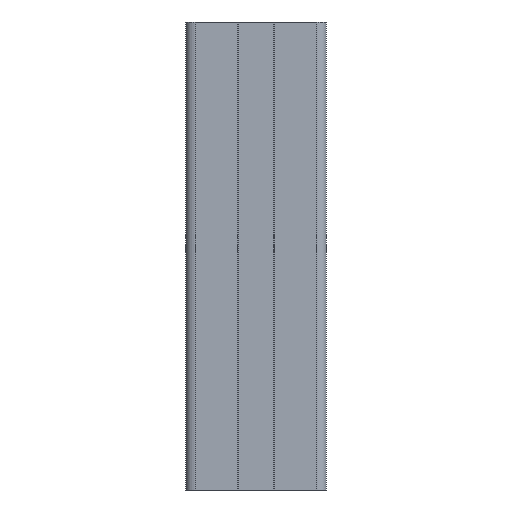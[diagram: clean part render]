
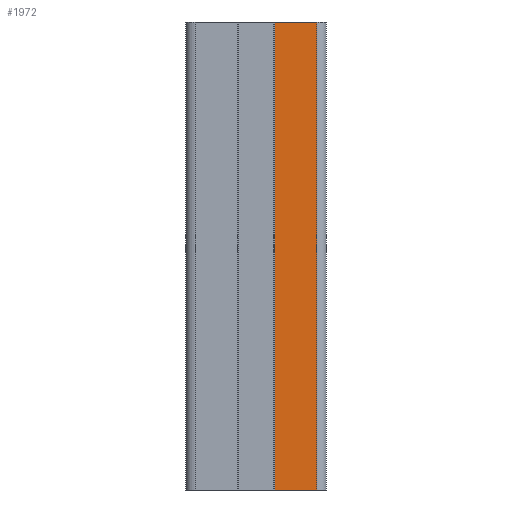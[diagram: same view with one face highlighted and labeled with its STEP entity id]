
A CAD part, left-side view. The second image highlights one B-rep face of the part: STEP entity #1972.
In plain terms, the highlighted planar face has unit normal (-1, 0, 0).
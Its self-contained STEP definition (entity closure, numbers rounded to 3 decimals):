
#171=FACE_OUTER_BOUND('',#272,.T.);
#272=EDGE_LOOP('',(#1403,#1404,#1405,#1406));
#415=LINE('',#3003,#634);
#416=LINE('',#3005,#635);
#417=LINE('',#3007,#636);
#418=LINE('',#3008,#637);
#634=VECTOR('',#2421,10.);
#635=VECTOR('',#2422,10.);
#636=VECTOR('',#2423,10.);
#637=VECTOR('',#2424,10.);
#850=VERTEX_POINT('',#3001);
#851=VERTEX_POINT('',#3002);
#852=VERTEX_POINT('',#3004);
#853=VERTEX_POINT('',#3006);
#1077=EDGE_CURVE('',#850,#851,#415,.T.);
#1078=EDGE_CURVE('',#850,#852,#416,.T.);
#1079=EDGE_CURVE('',#853,#852,#417,.T.);
#1080=EDGE_CURVE('',#851,#853,#418,.T.);
#1403=ORIENTED_EDGE('',*,*,#1077,.F.);
#1404=ORIENTED_EDGE('',*,*,#1078,.T.);
#1405=ORIENTED_EDGE('',*,*,#1079,.F.);
#1406=ORIENTED_EDGE('',*,*,#1080,.F.);
#1897=PLANE('',#2122);
#1972=ADVANCED_FACE('',(#171),#1897,.T.);
#2122=AXIS2_PLACEMENT_3D('',#3000,#2419,#2420);
#2419=DIRECTION('center_axis',(-1.,0.,0.));
#2420=DIRECTION('ref_axis',(0.,1.,0.));
#2421=DIRECTION('',(0.,-1.,0.));
#2422=DIRECTION('',(0.,0.,-1.));
#2423=DIRECTION('',(0.,1.,0.));
#2424=DIRECTION('',(0.,0.,-1.));
#3000=CARTESIAN_POINT('Origin',(-15.,-13.,500.));
#3001=CARTESIAN_POINT('',(-15.,-4.,500.));
#3002=CARTESIAN_POINT('',(-15.,-13.,500.));
#3003=CARTESIAN_POINT('',(-15.,-4.,500.));
#3004=CARTESIAN_POINT('',(-15.,-4.,400.));
#3005=CARTESIAN_POINT('',(-15.,-4.,500.));
#3006=CARTESIAN_POINT('',(-15.,-13.,400.));
#3007=CARTESIAN_POINT('',(-15.,-4.,400.));
#3008=CARTESIAN_POINT('',(-15.,-13.,500.));
